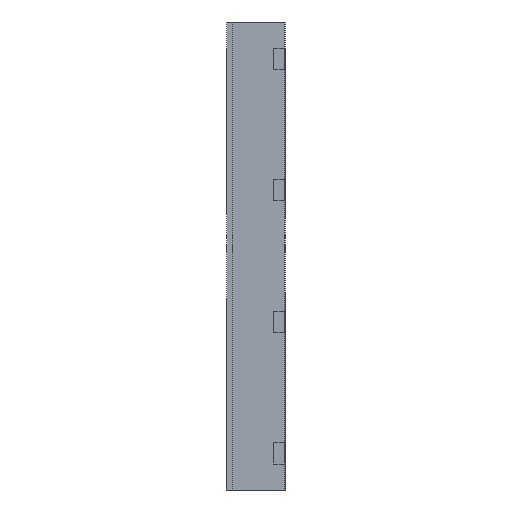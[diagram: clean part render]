
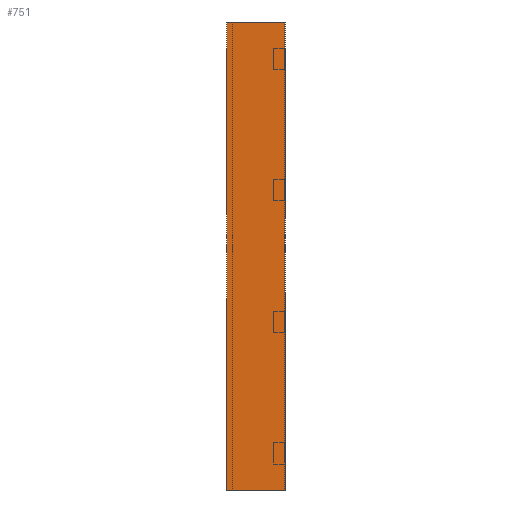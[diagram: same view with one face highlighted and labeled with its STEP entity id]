
A CAD part, left-side view. The second image highlights one B-rep face of the part: STEP entity #751.
In plain terms, the highlighted planar face has unit normal (-1, 0, 0).
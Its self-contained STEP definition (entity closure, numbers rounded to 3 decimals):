
#79 = EDGE_CURVE ( 'NONE', #1672, #219, #1611, .T. ) ;
#129 = FACE_OUTER_BOUND ( 'NONE', #891, .T. ) ;
#152 = VECTOR ( 'NONE', #1420, 1000. ) ;
#157 = CARTESIAN_POINT ( 'NONE',  ( 0., 0., -900. ) ) ;
#184 = AXIS2_PLACEMENT_3D ( 'NONE', #1586, #270, #655 ) ;
#219 = VERTEX_POINT ( 'NONE', #1138 ) ;
#270 = DIRECTION ( 'NONE',  ( -1., 0., 0. ) ) ;
#374 = LINE ( 'NONE', #904, #152 ) ;
#375 = VECTOR ( 'NONE', #1313, 1000. ) ;
#382 = PLANE ( 'NONE',  #184 ) ;
#441 = CARTESIAN_POINT ( 'NONE',  ( 0., 112.5, -900. ) ) ;
#597 = DIRECTION ( 'NONE',  ( 0., -1., 0. ) ) ;
#655 = DIRECTION ( 'NONE',  ( 0., 0., 1. ) ) ;
#751 = ADVANCED_FACE ( 'NONE', ( #129 ), #382, .T. ) ;
#830 = CARTESIAN_POINT ( 'NONE',  ( 0., 0., 0. ) ) ;
#891 = EDGE_LOOP ( 'NONE', ( #1334, #1030, #1256, #1155 ) ) ;
#904 = CARTESIAN_POINT ( 'NONE',  ( 0., 0., -900. ) ) ;
#913 = VERTEX_POINT ( 'NONE', #830 ) ;
#977 = LINE ( 'NONE', #1230, #1332 ) ;
#1030 = ORIENTED_EDGE ( 'NONE', *, *, #79, .F. ) ;
#1037 = CARTESIAN_POINT ( 'NONE',  ( 0., 0., -900. ) ) ;
#1068 = VERTEX_POINT ( 'NONE', #157 ) ;
#1138 = CARTESIAN_POINT ( 'NONE',  ( 0., 112.5, 0. ) ) ;
#1155 = ORIENTED_EDGE ( 'NONE', *, *, #1474, .T. ) ;
#1230 = CARTESIAN_POINT ( 'NONE',  ( 0., 0., 0. ) ) ;
#1256 = ORIENTED_EDGE ( 'NONE', *, *, #1486, .T. ) ;
#1271 = LINE ( 'NONE', #1037, #375 ) ;
#1313 = DIRECTION ( 'NONE',  ( 0., -1., 0. ) ) ;
#1332 = VECTOR ( 'NONE', #597, 1000. ) ;
#1334 = ORIENTED_EDGE ( 'NONE', *, *, #1335, .F. ) ;
#1335 = EDGE_CURVE ( 'NONE', #219, #913, #977, .T. ) ;
#1340 = VECTOR ( 'NONE', #1645, 1000. ) ;
#1420 = DIRECTION ( 'NONE',  ( 0., 0., 1. ) ) ;
#1474 = EDGE_CURVE ( 'NONE', #1068, #913, #374, .T. ) ;
#1486 = EDGE_CURVE ( 'NONE', #1672, #1068, #1271, .T. ) ;
#1586 = CARTESIAN_POINT ( 'NONE',  ( 0., 0., -900. ) ) ;
#1611 = LINE ( 'NONE', #441, #1340 ) ;
#1623 = CARTESIAN_POINT ( 'NONE',  ( 0., 112.5, -900. ) ) ;
#1645 = DIRECTION ( 'NONE',  ( 0., 0., 1. ) ) ;
#1672 = VERTEX_POINT ( 'NONE', #1623 ) ;
